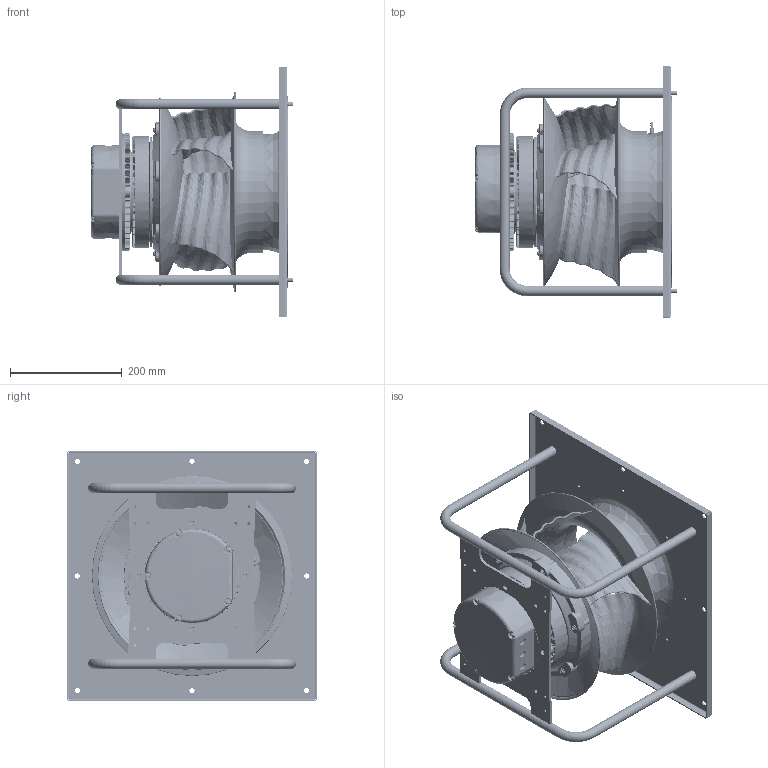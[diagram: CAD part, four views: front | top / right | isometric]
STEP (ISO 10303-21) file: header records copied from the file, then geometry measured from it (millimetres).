
FILE_DESCRIPTION((''),'2;1');
FILE_NAME('ZAC_17-12-41-KM','2019-01-24T',('Burger'),(''),'CREO PARAMETRIC BY PTC INC, 2017170','CREO PARAMETRIC BY PTC INC, 2017170','');
FILE_SCHEMA(('AUTOMOTIVE_DESIGN { 1 0 10303 214 1 1 1 1 }'));
Length unit declared in the file: millimetre
Products named in the file (1): ZAC_17-12-41-KM
Bounding box: 363 x 450 x 450 mm (x, y, z)
Volume: 5709171.6 mm3; surface area: 1575359.6 mm2
Topology: 3 solids, 3 shells, 6371 faces, 15863 edges, 9501 vertices
Faces by surface type: plane 1677, cylinder 1392, bspline 1302, torus 1184, cone 434, extrusion 290, sphere 84, revolution 8
Entity records: 302596 total; most frequent: CARTESIAN_POINT 138278, ORIENTED_EDGE 31636, DIRECTION 27814, EDGE_CURVE 15818, AXIS2_PLACEMENT_3D 11121, VERTEX_POINT 9501, EDGE_LOOP 6683, FACE_OUTER_BOUND 6371
